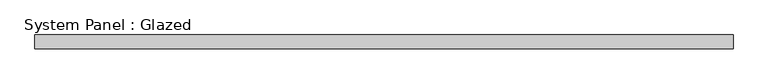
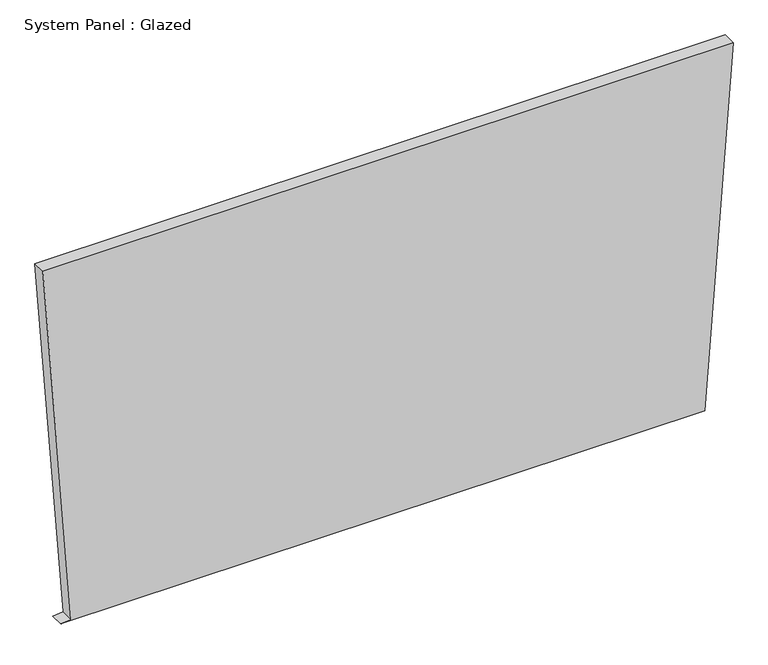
"""IFC4 building model written with IfcOpenShell, lengths in millimetres: plate geometry, System Panel : Glazed."""

from ifc_helpers import new_model, si_unit, frame, origin, place, context, project, spatial, polyline, outline, extrude, source, transform, mapped, element, save


def system_panel_glazed_842aa2e1(model_context):
    return source(origin(), model_context, "Body", "SweptSolid", [
        extrude(outline(polyline([(0.0, -607.7157969), (0.0131925, 588.612953), (703.8648454, 641.040195), (703.8507073, -641.040195), (1.4150423, -588.7184245), (0.0, -607.7157969)])), frame((0.0, 19.05, 0.0), z_axis=(0.0, 1.0, 0.0), x_axis=(0.0, 0.0, 1.0)), (0.0, 0.0, 1.0), 25.4),
    ])


if __name__ == "__main__":
    model = new_model("IFC4")
    model_context = context("Model", 3, world=origin())
    ifc_project = project(units=[si_unit("LENGTHUNIT", "METRE", prefix="MILLI")], contexts=[model_context])
    site = spatial("IfcSite", under=ifc_project)
    building = spatial("IfcBuilding", under=site)
    placement = place(None, origin())
    system_panel_glazed_shape = system_panel_glazed_842aa2e1(model_context)
    element("IfcPlate", 1, ObjectType="System Panel : Glazed", at=placement, inside=building, context=model_context, shape_type="MappedRepresentation", body=[
        mapped(system_panel_glazed_shape, transform((0.0, 0.0, 0.0), x_axis=(1.0, 0.0, 0.0), y_axis=(0.0, 1.0, 0.0), z_axis=(0.0, 0.0, 1.0))),
    ])
    save(model, "model.ifc")
